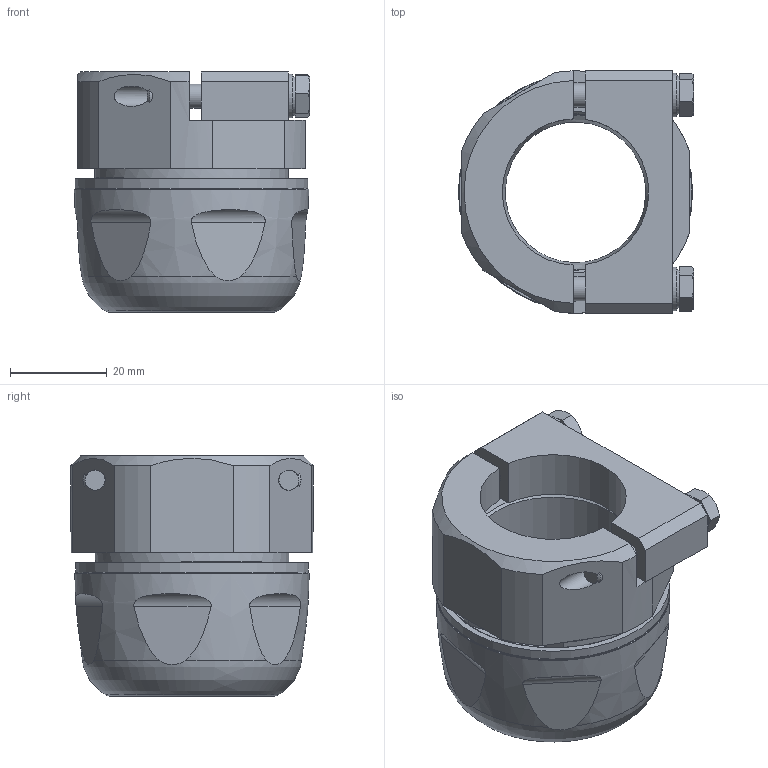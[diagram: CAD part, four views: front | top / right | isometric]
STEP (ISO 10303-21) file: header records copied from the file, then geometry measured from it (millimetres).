
FILE_DESCRIPTION( ( 'Unknown' ), '1' );
FILE_NAME( 'C:/Users/rih/Desktop/11208731.stp', 'Unknown', ( 'Unknown' ), ( 'Unknown' ), 'PSStep 19.0.9', 'Unknown', ' ' );
FILE_SCHEMA( ( 'AUTOMOTIVE_DESIGN { 1 0 10303 214 1 1 1 1 }' ) );
Length unit declared in the file: millimetre
Products named in the file (1): Rotation lock M40 V4A IP69K
Bounding box: 48.6 x 50 x 49.57 mm (x, y, z)
Volume: 44783.9 mm3; surface area: 19038.1 mm2
Topology: 1 solids, 1 shells, 146 faces, 359 edges, 226 vertices
Faces by surface type: plane 74, cylinder 36, cone 23, bspline 7, torus 6
Full cylindrical faces by diameter (mm): 5 x2, 5.3 x2, 8 x2, 9 x2, 32 x1, 32.3 x1, 33.7 x1, 38.5 x1, 40 x1
Entity records: 5978 total; most frequent: CARTESIAN_POINT 1595, DIRECTION 661, ORIENTED_EDGE 628, EDGE_CURVE 314, AXIS2_PLACEMENT_3D 266, VERTEX_POINT 212, EDGE_LOOP 193, FACE_OUTER_BOUND 166
